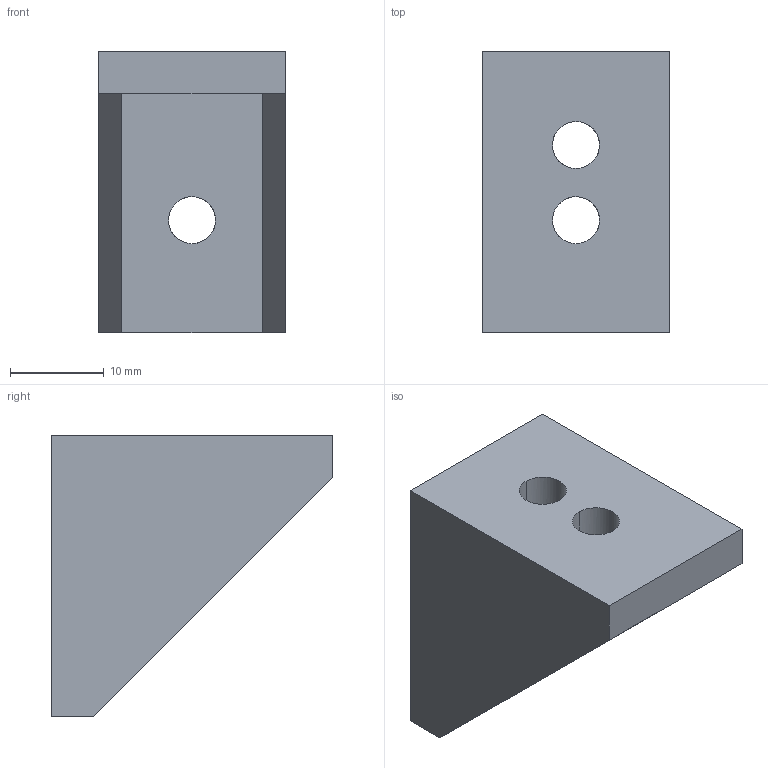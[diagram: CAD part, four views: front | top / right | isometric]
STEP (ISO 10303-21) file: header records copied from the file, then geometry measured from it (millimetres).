
FILE_DESCRIPTION(/* description */ (''),/* implementation_level */ '2;1');
FILE_NAME(/* name */ 'OPD793~1',/* time_stamp */ '2014-02-14T19:49:00+01:00',/* author */ (''),/* organization */ (''),/* preprocessor_version */ 'ST-DEVELOPER v14',/* originating_system */ '',/* authorisation */ '');
FILE_SCHEMA (('AUTOMOTIVE_DESIGN'));
Length unit declared in the file: millimetre
Products named in the file (1): Document
Bounding box: 20 x 30 x 30 mm (x, y, z)
Volume: 6355.3 mm3; surface area: 4219.4 mm2
Topology: 1 solids, 1 shells, 18 faces, 44 edges, 28 vertices
Faces by surface type: plane 12, bspline 6
Entity records: 1280 total; most frequent: CARTESIAN_POINT 656, B_SPLINE_CURVE_WITH_KNOTS 114, ORIENTED_EDGE 88, PCURVE 88, DEFINITIONAL_REPRESENTATION 88, SURFACE_CURVE 44, EDGE_CURVE 44, VERTEX_POINT 28
